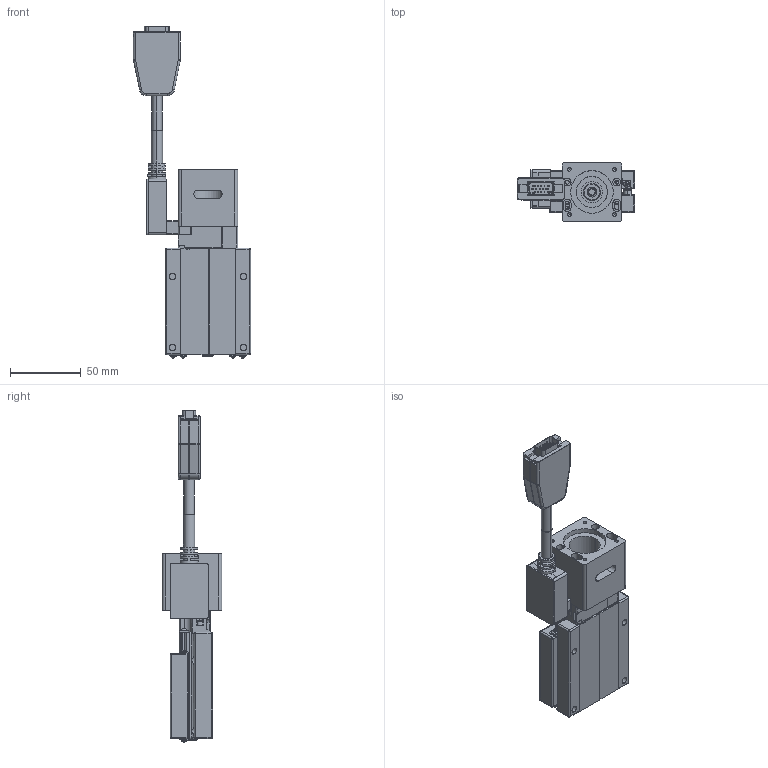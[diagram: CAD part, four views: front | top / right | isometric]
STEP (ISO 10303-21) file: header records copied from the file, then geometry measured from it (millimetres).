
FILE_DESCRIPTION (( 'STEP AP203' ), '1' );
FILE_NAME ('CXS6030(伺服P無馬達).STEP', '2023-12-25T07:23:20', ( '' ), ( '' ), 'SwSTEP 2.0', 'SolidWorks 2019', '' );
FILE_SCHEMA (( 'CONFIG_CONTROL_DESIGN' ));
Length unit declared in the file: millimetre
Products named in the file (6): Group2^CXS6030(伺服M無馬達)_defeature_GMT; HR10A-10J-12P; Group1^CXS6030(伺服M無馬達)_defeature_GMT; CXS-H-01; CXS6030(伺服P無馬達); CXS-P_GMT
Assembly tree (5 placements, depth 2):
  CXS6030(伺服P無馬達)
    Group1^CXS6030(伺服M無馬達)_defeature_GMT
    Group2^CXS6030(伺服M無馬達)_defeature_GMT
    HR10A-10J-12P
    CXS-H-01
    CXS-P_GMT
Bounding box: 82.5 x 42 x 234.01 mm (x, y, z)
Volume: 180252.9 mm3; surface area: 82349.8 mm2
Topology: 10 solids, 10 shells, 2386 faces, 6065 edges, 3836 vertices
Faces by surface type: plane 1306, cylinder 637, cone 151, bspline 142, sphere 102, torus 48
Entity records: 78831 total; most frequent: CARTESIAN_POINT 20672, ORIENTED_EDGE 12050, DIRECTION 11924, EDGE_CURVE 6025, AXIS2_PLACEMENT_3D 4148, VERTEX_POINT 3836, LINE 3628, VECTOR 3628
